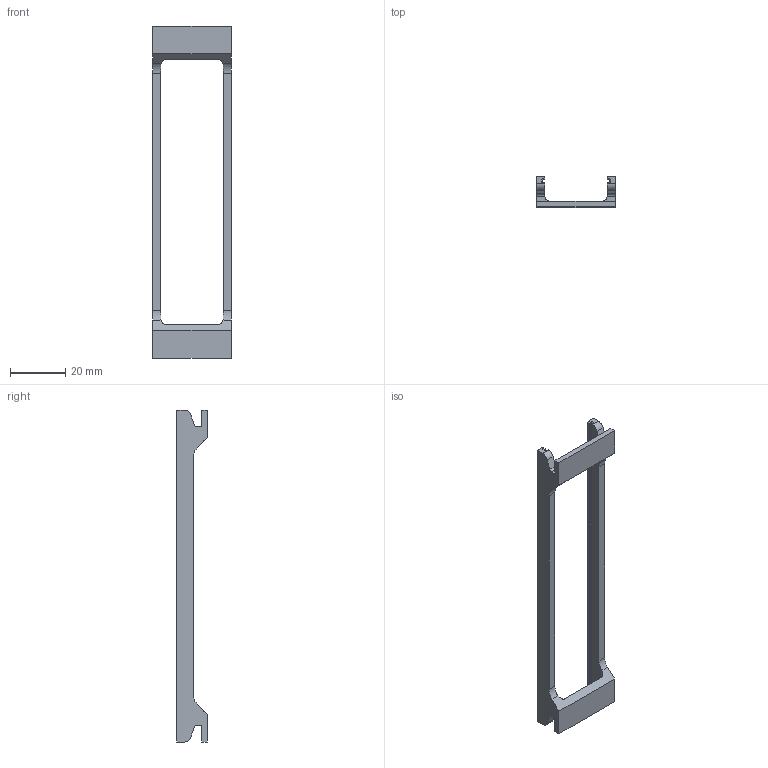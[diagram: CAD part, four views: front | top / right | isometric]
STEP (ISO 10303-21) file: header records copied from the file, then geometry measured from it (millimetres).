
FILE_DESCRIPTION(/* description */ (''),/* implementation_level */ '2;1');
FILE_NAME(/* name */ 'C:/Users/Ben/Desktop/pme/24mmClipStrip.step',/* time_stamp */ '2022-04-22T16:54:06-04:00',/* author */ (''),/* organization */ (''),/* preprocessor_version */ 'ST-DEVELOPER v18.1',/* originating_system */ 'Autodesk Translation Framework v10.10.0.1391',/* authorisation */ '');
FILE_SCHEMA (('AUTOMOTIVE_DESIGN { 1 0 10303 214 3 1 1 }'));
Length unit declared in the file: millimetre
Products named in the file (1): ClipPCBTrays
Bounding box: 28.5 x 11 x 120 mm (x, y, z)
Volume: 5560.4 mm3; surface area: 6445.6 mm2
Topology: 1 solids, 1 shells, 74 faces, 206 edges, 132 vertices
Faces by surface type: plane 58, cylinder 16
Entity records: 2387 total; most frequent: CARTESIAN_POINT 445, ORIENTED_EDGE 412, DIRECTION 380, EDGE_CURVE 206, LINE 166, VECTOR 166, VERTEX_POINT 132, AXIS2_PLACEMENT_3D 107
